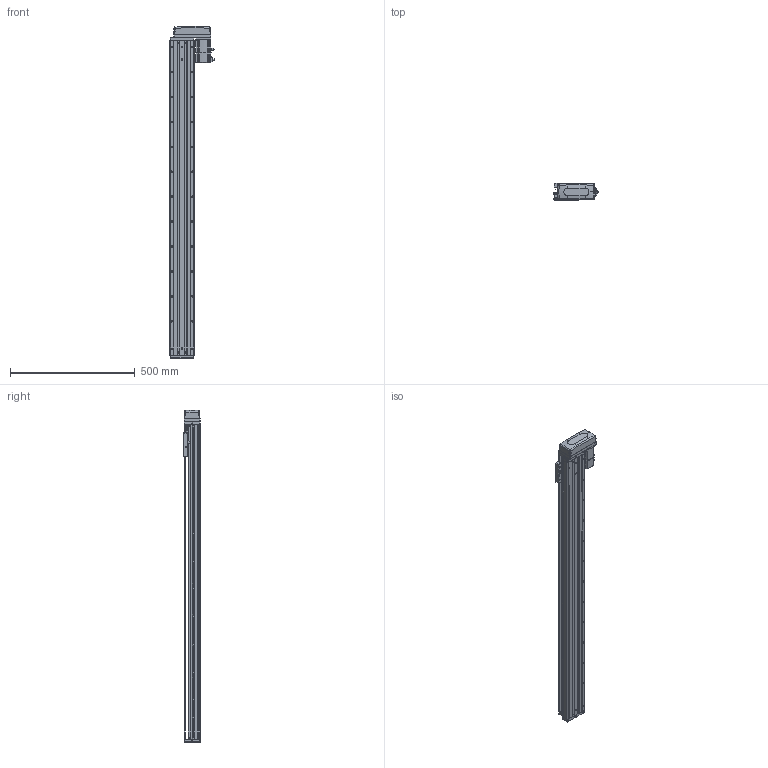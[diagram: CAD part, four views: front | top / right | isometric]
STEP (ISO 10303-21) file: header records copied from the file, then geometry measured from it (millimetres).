
FILE_DESCRIPTION (( 'STEP AP203' ), '1' );
FILE_NAME ('KTHA100-1100-BL-M20-C4L.step', '2022-04-26T01:47:40', ( '微软用户' ), ( '微软中国' ), 'SwSTEP 2.0', 'SolidWorks 2020', '' );
FILE_SCHEMA (( 'CONFIG_CONTROL_DESIGN' ));
Length unit declared in the file: millimetre
Products named in the file (17): GBT77-2000 M3×3; CTHA86-033; KTHA100-004; GBT 70.1-M3℅6; KTHA100-1100-BL-M20-C4L; KTHA100-005; GBT70.1 M5℅16; GB¨uT 70.2-M3¡Á5_M3¡Á6; CTHA60-016; EE_SX911P_R; GBT 70.3-M3℅6; CTHA60-017; _X2_4E0983F1_X0_200W_1; KTHA100-001_1260; CTHA60-021; CTHA86-015-1_CTHA86-015-2; KTHA100-002
Assembly tree (57 placements, depth 2):
  KTHA100-1100-BL-M20-C4L
    KTHA100-001_1260
    KTHA100-002
    KTHA100-004
    KTHA100-005
    GB¨uT 70.2-M3¡Á5_M3¡Á6  x6
    EE_SX911P_R  x3
    CTHA60-017  x3
    CTHA60-021  x2
    GBT77-2000 M3×3  x6
    GBT 70.1-M3℅6  x10
    GBT70.1 M5℅16  x14
    CTHA60-016  x2
    GBT 70.3-M3℅6  x4
    _X2_4E0983F1_X0_200W_1
    CTHA86-015-1_CTHA86-015-2
    CTHA86-033
Bounding box: 177.7 x 68 x 1331 mm (x, y, z)
Volume: 5474617.8 mm3; surface area: 883129.2 mm2
Topology: 60 solids, 60 shells, 2537 faces, 6113 edges, 3796 vertices
Faces by surface type: plane 1304, cylinder 707, cone 319, torus 116, bspline 75, sphere 16
Entity records: 45178 total; most frequent: CARTESIAN_POINT 9008, DIRECTION 7042, ORIENTED_EDGE 6838, EDGE_CURVE 3419, AXIS2_PLACEMENT_3D 2438, LINE 2166, VECTOR 2166, VERTEX_POINT 2156
